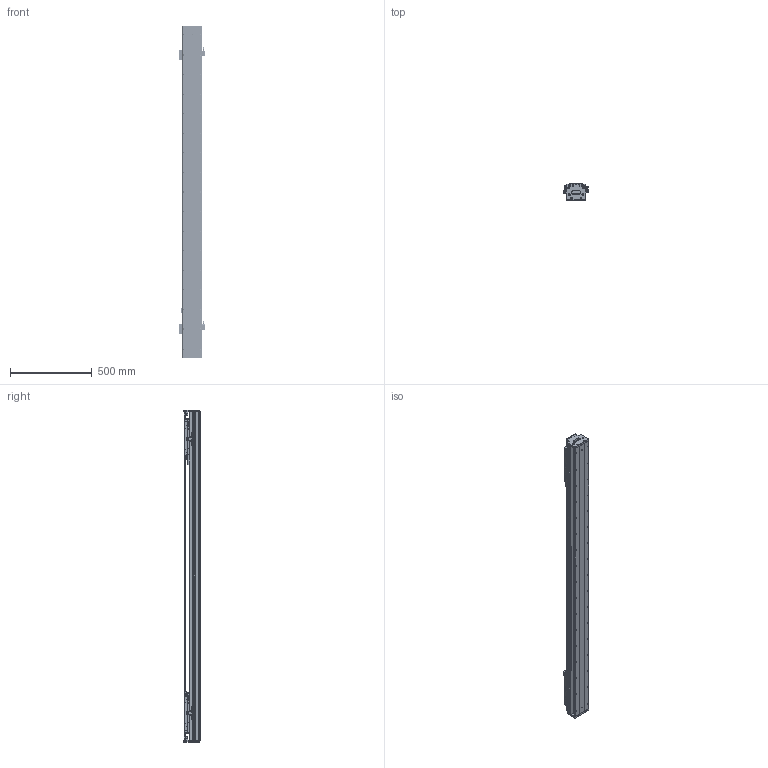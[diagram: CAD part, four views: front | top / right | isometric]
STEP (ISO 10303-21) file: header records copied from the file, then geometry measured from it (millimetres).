
FILE_DESCRIPTION (( 'STEP AP203' ), '1' );
FILE_NAME ('DKW119-2×C3-W060(T1400-L005-0.2).STEP', '2021-09-17T09:23:14', ( '微软用户' ), ( '微软中国' ), 'SwSTEP 2.0', 'SolidWorks 2018', '' );
FILE_SCHEMA (( 'CONFIG_CONTROL_DESIGN' ));
Length unit declared in the file: millimetre
Products named in the file (26): 电机出线 ^DKW119-2×C3-W060(T1400-L005-0.2); CKM03-W060_00; DKW119 单轴模组-拉钢带组件; CKMA01-W060-TRLxxx; DKW-DG-XJ-Z-00 笢潔滅袉砎蝶; pm-y65; DKW-HXJ-JY-00 遣喳砎蝶; DKW-GYP-ZJ-00 笢潔嫖萇覜茼え; 10980-0001-003-00 嫖萇羲壽嘐隅釱; 11062-0001-004-00 DKW119傷啣; DKW-KGZ-ZJ-00 中间光电开关支架; 嫖萇羲壽蚾饜极; 06652-0001-004-00 DKW120嶺輸菜輸; EE_SX674A; 嫖萇羲壽蚾饜极A; 12018-0001-002-00 詩湍; 12018-0001-001-00 菁釱; DKW119-2×C3-W060(T1400-L005-0.2); DKW-SG-GYP-H-00 嫖萇覜茼え; 砎蝶猾沭; MSB15-DG-U; RUS嫖掑喜; 12160-0000-003-00 DKW120詩湍嶺輸; DKW119-RU-DTJ-00 RU2黍杅芛盓殤; Ru2; 12160-0000-004-00  DKW120詩湍揤輸
Assembly tree (45 placements, depth 3):
  DKW119-2×C3-W060(T1400-L005-0.2)
    12018-0001-001-00 菁釱
    MSB15-DG-U  x2
    DKW119-RU-DTJ-00 RU2黍杅芛盓殤  x2
    电机出线 ^DKW119-2×C3-W060(T1400-L005-0.2)  x2
    CKMA01-W060-TRLxxx
    DKW119 单轴模组-拉钢带组件
      DKW-HXJ-JY-00 遣喳砎蝶  x4
      11062-0001-004-00 DKW119傷啣  x2
      06652-0001-004-00 DKW120嶺輸菜輸  x4
      12018-0001-002-00 詩湍
      砎蝶猾沭  x2
      12160-0000-003-00 DKW120詩湍嶺輸  x2
      12160-0000-004-00  DKW120詩湍揤輸  x2
    嫖萇羲壽蚾饜极
      pm-y65  x2
      10980-0001-003-00 嫖萇羲壽嘐隅釱
    嫖萇羲壽蚾饜极A
      pm-y65  x2
      10980-0001-003-00 嫖萇羲壽嘐隅釱
    DKW-SG-GYP-H-00 嫖萇覜茼え  x2
    RUS嫖掑喜
    Ru2  x2
    CKM03-W060_00  x2
    DKW-DG-XJ-Z-00 笢潔滅袉砎蝶
    DKW-GYP-ZJ-00 笢潔嫖萇覜茼え
    DKW-KGZ-ZJ-00 中间光电开关支架
    EE_SX674A
Bounding box: 154.3 x 99 x 2036 mm (x, y, z)
Volume: 10011509.7 mm3; surface area: 3108876.4 mm2
Topology: 62 solids, 160 shells, 6593 faces, 17510 edges, 11210 vertices
Faces by surface type: plane 3516, cylinder 2033, cone 550, bspline 494
Entity records: 135256 total; most frequent: CARTESIAN_POINT 44363, ORIENTED_EDGE 18219, DIRECTION 17608, EDGE_CURVE 9150, VERTEX_POINT 5998, AXIS2_PLACEMENT_3D 5960, LINE 5688, VECTOR 5688
